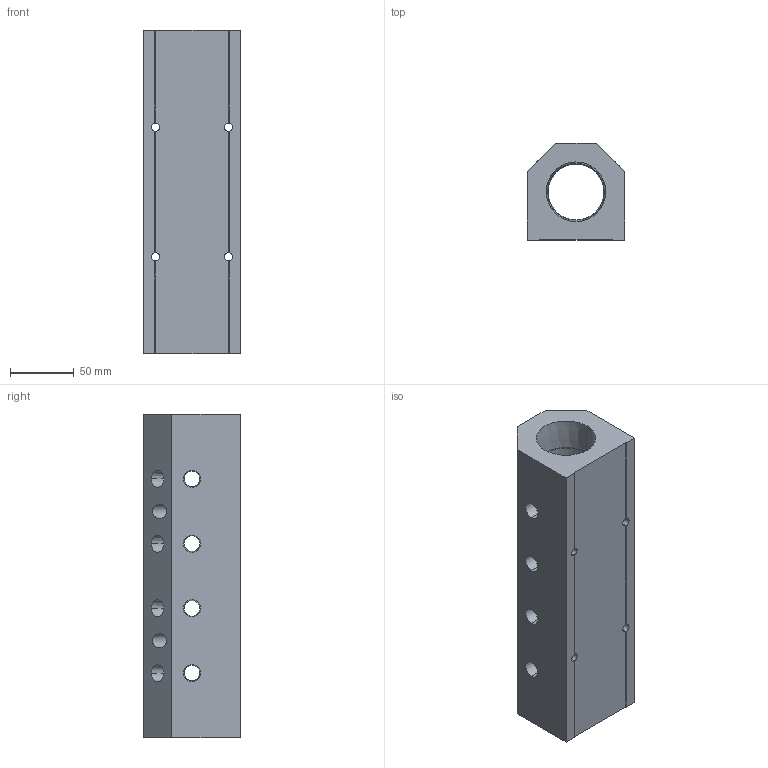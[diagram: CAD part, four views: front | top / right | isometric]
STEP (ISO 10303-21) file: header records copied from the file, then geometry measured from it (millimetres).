
FILE_DESCRIPTION (( 'STEP AP214' ), '1' );
FILE_NAME ('ALM4ABCDE-N4N24-254B.step', '2022-02-07T07:46:13', ( '' ), ( '' ), 'SwSTEP 2.0', 'SolidWorks 2020', '' );
FILE_SCHEMA (( 'AUTOMOTIVE_DESIGN' ));
Length unit declared in the file: millimetre
Products named in the file (1): ALM4ABCDE-N4N24-254B
Bounding box: 76.2 x 76.2 x 254 mm (x, y, z)
Volume: 896538.1 mm3; surface area: 127227.4 mm2
Topology: 1 solids, 1 shells, 389 faces, 1044 edges, 688 vertices
Faces by surface type: plane 269, bspline 58, cone 44, cylinder 18
Entity records: 21343 total; most frequent: CARTESIAN_POINT 8216, ORIENTED_EDGE 2088, DIRECTION 1612, EDGE_CURVE 1044, LINE 796, VECTOR 796, VERTEX_POINT 688, EDGE_LOOP 470
